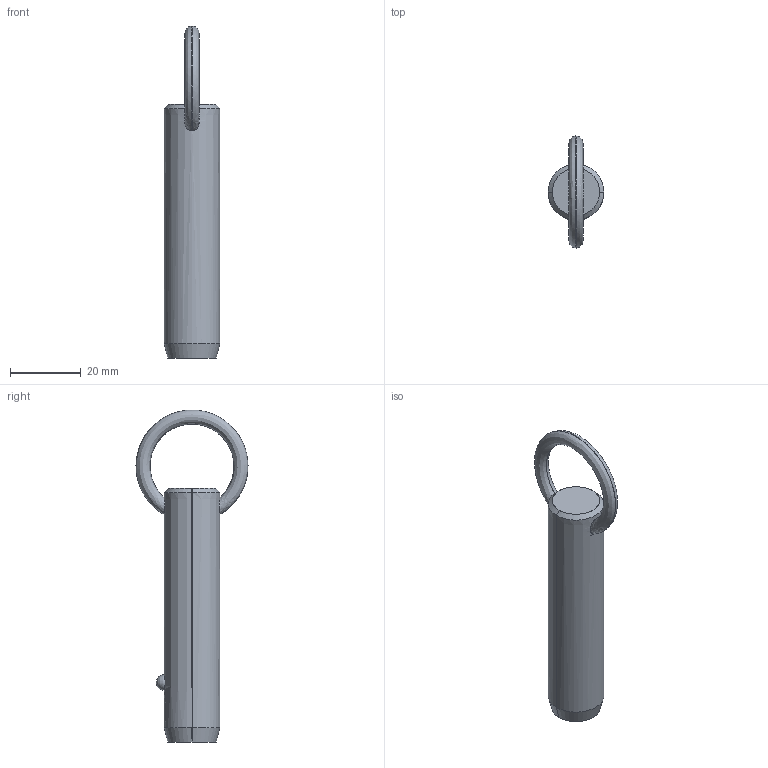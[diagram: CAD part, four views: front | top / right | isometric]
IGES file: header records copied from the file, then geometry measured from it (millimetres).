
Start section: SolidWorks IGES file using analytic representation for surfaces
Global section: file name: C:\Users\liam_\OneDrive\Documents\WORK\Work for WixRoyd\Job Files\J-00019 - Matt Davis CAD Checking\04. CAD Drawings\automotion20190605\P1250.2_v2\P1250.2_v2_20190729_IGES\P1250.062-170.igs; native system: SolidWorks 2017; preprocessor: SolidWorks 2017; author: liam_; date: 190729.233119; units: millimetre
Bounding box: 15.8 x 31.7 x 93.9 mm (x, y, z)
Surface area: 4732.8 mm2 (no closed solid volume)
Topology: 0 solids, 0 shells, 12 faces, 292 edges, 290 vertices
Faces by surface type: revolution 8, bspline 4
